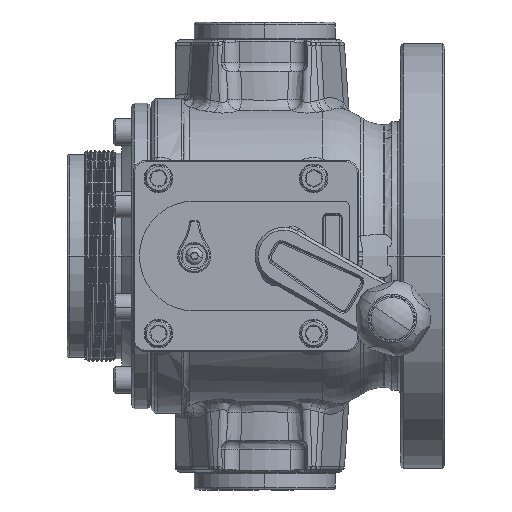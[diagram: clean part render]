
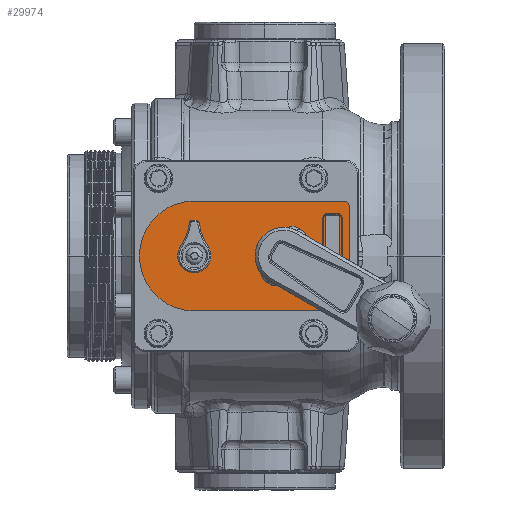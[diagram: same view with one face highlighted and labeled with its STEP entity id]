
A CAD part, left-side view. The second image highlights one B-rep face of the part: STEP entity #29974.
In plain terms, the highlighted planar face has unit normal (-1, 0, 0).
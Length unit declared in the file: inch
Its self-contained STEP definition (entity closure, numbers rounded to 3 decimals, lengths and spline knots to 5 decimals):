
#64 = FACE_BOUND ( 'NONE', #6450, .T. ) ;
#399 = LINE ( 'NONE', #24108, #70861 ) ;
#1744 = VECTOR ( 'NONE', #51177, 39.37008 ) ;
#2092 = CARTESIAN_POINT ( 'NONE',  ( -5.41, -1.25, -1.15 ) ) ;
#2377 = EDGE_LOOP ( 'NONE', ( #52035, #53061 ) ) ;
#2413 = ORIENTED_EDGE ( 'NONE', *, *, #67051, .T. ) ;
#3471 = VECTOR ( 'NONE', #18883, 39.37008 ) ;
#3736 = FACE_BOUND ( 'NONE', #64089, .T. ) ;
#4214 = DIRECTION ( 'NONE',  ( 0., 0., -1. ) ) ;
#4407 = VERTEX_POINT ( 'NONE', #2092 ) ;
#4870 = CIRCLE ( 'NONE', #58396, 0.125 ) ;
#5396 = CARTESIAN_POINT ( 'NONE',  ( -5.41, 1.875, 0. ) ) ;
#6450 = EDGE_LOOP ( 'NONE', ( #45688, #44149 ) ) ;
#6763 = DIRECTION ( 'NONE',  ( 0., 0., -1. ) ) ;
#7351 = CARTESIAN_POINT ( 'NONE',  ( -5.41, -0.8625, 0.85 ) ) ;
#8009 = DIRECTION ( 'NONE',  ( 0., 0., -1. ) ) ;
#8601 = VERTEX_POINT ( 'NONE', #13038 ) ;
#8854 = VERTEX_POINT ( 'NONE', #15743 ) ;
#9746 = ORIENTED_EDGE ( 'NONE', *, *, #58410, .T. ) ;
#9747 = DIRECTION ( 'NONE',  ( 1., 0., 0. ) ) ;
#10282 = CARTESIAN_POINT ( 'NONE',  ( -5.41, -3.04234, 1.15 ) ) ;
#11160 = DIRECTION ( 'NONE',  ( 1., 0., 0. ) ) ;
#11568 = ORIENTED_EDGE ( 'NONE', *, *, #24633, .F. ) ;
#11715 = CIRCLE ( 'NONE', #14725, 0.125 ) ;
#13038 = CARTESIAN_POINT ( 'NONE',  ( -5.41, 1.875, -0.275 ) ) ;
#14022 = CARTESIAN_POINT ( 'NONE',  ( -5.41, -0.8625, 0.85 ) ) ;
#14162 = VERTEX_POINT ( 'NONE', #14022 ) ;
#14367 = VERTEX_POINT ( 'NONE', #60472 ) ;
#14725 = AXIS2_PLACEMENT_3D ( 'NONE', #70105, #41361, #6763 ) ;
#15043 = CARTESIAN_POINT ( 'NONE',  ( -5.41, 1.875, 0. ) ) ;
#15691 = AXIS2_PLACEMENT_3D ( 'NONE', #69906, #25165, #35306 ) ;
#15743 = CARTESIAN_POINT ( 'NONE',  ( -5.41, -0.8625, -0.85 ) ) ;
#15766 = CARTESIAN_POINT ( 'NONE',  ( -5.41, -1.175, 0.85 ) ) ;
#15815 = CARTESIAN_POINT ( 'NONE',  ( -5.41, -1.25, 1.15 ) ) ;
#16701 = CARTESIAN_POINT ( 'NONE',  ( -5.41, -1.375, -1.025 ) ) ;
#18828 = ORIENTED_EDGE ( 'NONE', *, *, #60975, .F. ) ;
#18883 = DIRECTION ( 'NONE',  ( 0., -1., 0. ) ) ;
#18986 = AXIS2_PLACEMENT_3D ( 'NONE', #38750, #9747, #4214 ) ;
#18990 = FACE_BOUND ( 'NONE', #2377, .T. ) ;
#21743 = CIRCLE ( 'NONE', #66932, 0.275 ) ;
#21985 = EDGE_CURVE ( 'NONE', #14162, #65827, #36825, .T. ) ;
#22709 = DIRECTION ( 'NONE',  ( 0., 0., -1. ) ) ;
#23639 = CARTESIAN_POINT ( 'NONE',  ( -5.41, 0., -0.475 ) ) ;
#24108 = CARTESIAN_POINT ( 'NONE',  ( -5.41, -1.375, 0. ) ) ;
#24153 = ORIENTED_EDGE ( 'NONE', *, *, #21985, .T. ) ;
#24633 = EDGE_CURVE ( 'NONE', #67213, #4407, #4870, .T. ) ;
#24984 = CARTESIAN_POINT ( 'NONE',  ( -5.41, 1.875, 0. ) ) ;
#25165 = DIRECTION ( 'NONE',  ( 1., 0., 0. ) ) ;
#25577 = CARTESIAN_POINT ( 'NONE',  ( -5.41, 0., 0. ) ) ;
#25662 = ORIENTED_EDGE ( 'NONE', *, *, #59540, .F. ) ;
#26222 = CIRCLE ( 'NONE', #52034, 1.15 ) ;
#26231 = ORIENTED_EDGE ( 'NONE', *, *, #30992, .F. ) ;
#26714 = DIRECTION ( 'NONE',  ( 0., 0., 1. ) ) ;
#26840 = DIRECTION ( 'NONE',  ( 0., 0., -1. ) ) ;
#27152 = CARTESIAN_POINT ( 'NONE',  ( -5.41, -1.375, 1.025 ) ) ;
#27437 = CARTESIAN_POINT ( 'NONE',  ( -5.41, -0.8625, 0.85 ) ) ;
#27791 = DIRECTION ( 'NONE',  ( 0., 0., -1. ) ) ;
#28778 = CARTESIAN_POINT ( 'NONE',  ( -5.41, -1.25, -1.025 ) ) ;
#29399 = VERTEX_POINT ( 'NONE', #15815 ) ;
#29672 = ORIENTED_EDGE ( 'NONE', *, *, #72768, .T. ) ;
#29974 = ADVANCED_FACE ( 'NONE', ( #3736, #64, #18990, #47108 ), #67523, .F. ) ;
#30249 = EDGE_CURVE ( 'NONE', #51430, #8601, #21743, .T. ) ;
#30635 = EDGE_CURVE ( 'NONE', #45815, #14367, #47038, .T. ) ;
#30792 = CARTESIAN_POINT ( 'NONE',  ( -5.41, -3.04234, -1.15 ) ) ;
#30992 = EDGE_CURVE ( 'NONE', #29399, #72374, #11715, .T. ) ;
#35306 = DIRECTION ( 'NONE',  ( 0., 0., -1. ) ) ;
#36377 = AXIS2_PLACEMENT_3D ( 'NONE', #25577, #59746, #8009 ) ;
#36665 = DIRECTION ( 'NONE',  ( 1., 0., 0. ) ) ;
#36825 = LINE ( 'NONE', #7351, #3471 ) ;
#37453 = DIRECTION ( 'NONE',  ( 0., 0., -1. ) ) ;
#37806 = CARTESIAN_POINT ( 'NONE',  ( -5.41, -0.8625, -0.85 ) ) ;
#38750 = CARTESIAN_POINT ( 'NONE',  ( -5.41, -3.04234, 0. ) ) ;
#41361 = DIRECTION ( 'NONE',  ( 1., 0., 0. ) ) ;
#41763 = EDGE_CURVE ( 'NONE', #8601, #51430, #54444, .T. ) ;
#41827 = AXIS2_PLACEMENT_3D ( 'NONE', #5396, #11160, #22709 ) ;
#42154 = VECTOR ( 'NONE', #26714, 39.37008 ) ;
#43939 = LINE ( 'NONE', #55656, #51138 ) ;
#44149 = ORIENTED_EDGE ( 'NONE', *, *, #49456, .T. ) ;
#44312 = LINE ( 'NONE', #10282, #1744 ) ;
#44640 = LINE ( 'NONE', #30792, #70725 ) ;
#45583 = DIRECTION ( 'NONE',  ( 1., 0., 0. ) ) ;
#45688 = ORIENTED_EDGE ( 'NONE', *, *, #30635, .T. ) ;
#45815 = VERTEX_POINT ( 'NONE', #23639 ) ;
#46517 = VERTEX_POINT ( 'NONE', #67653 ) ;
#47001 = VERTEX_POINT ( 'NONE', #62747 ) ;
#47038 = CIRCLE ( 'NONE', #15691, 0.475 ) ;
#47066 = DIRECTION ( 'NONE',  ( 0., 0., -1. ) ) ;
#47108 = FACE_OUTER_BOUND ( 'NONE', #66136, .T. ) ;
#48382 = EDGE_CURVE ( 'NONE', #8854, #14162, #72853, .T. ) ;
#49456 = EDGE_CURVE ( 'NONE', #14367, #45815, #61235, .T. ) ;
#49483 = DIRECTION ( 'NONE',  ( 0., 1., 0. ) ) ;
#51138 = VECTOR ( 'NONE', #37453, 39.37008 ) ;
#51177 = DIRECTION ( 'NONE',  ( 0., 1., 0. ) ) ;
#51430 = VERTEX_POINT ( 'NONE', #68487 ) ;
#52034 = AXIS2_PLACEMENT_3D ( 'NONE', #15043, #61483, #26840 ) ;
#52035 = ORIENTED_EDGE ( 'NONE', *, *, #41763, .T. ) ;
#52573 = VECTOR ( 'NONE', #49483, 39.37008 ) ;
#53061 = ORIENTED_EDGE ( 'NONE', *, *, #30249, .T. ) ;
#54444 = CIRCLE ( 'NONE', #41827, 0.275 ) ;
#55656 = CARTESIAN_POINT ( 'NONE',  ( -5.41, -1.175, 0.85 ) ) ;
#58396 = AXIS2_PLACEMENT_3D ( 'NONE', #28778, #45583, #27791 ) ;
#58410 = EDGE_CURVE ( 'NONE', #73163, #47001, #26222, .T. ) ;
#58756 = ORIENTED_EDGE ( 'NONE', *, *, #48382, .T. ) ;
#58780 = DIRECTION ( 'NONE',  ( 0., 0., -1. ) ) ;
#59540 = EDGE_CURVE ( 'NONE', #72374, #67213, #399, .T. ) ;
#59695 = CARTESIAN_POINT ( 'NONE',  ( -5.41, 1.875, 1.15 ) ) ;
#59746 = DIRECTION ( 'NONE',  ( 1., 0., 0. ) ) ;
#60472 = CARTESIAN_POINT ( 'NONE',  ( -5.41, 0., 0.475 ) ) ;
#60975 = EDGE_CURVE ( 'NONE', #4407, #47001, #44640, .T. ) ;
#61235 = CIRCLE ( 'NONE', #36377, 0.475 ) ;
#61483 = DIRECTION ( 'NONE',  ( -1., 0., 0. ) ) ;
#62747 = CARTESIAN_POINT ( 'NONE',  ( -5.41, 1.875, -1.15 ) ) ;
#64089 = EDGE_LOOP ( 'NONE', ( #58756, #24153, #2413, #74489 ) ) ;
#65827 = VERTEX_POINT ( 'NONE', #15766 ) ;
#66136 = EDGE_LOOP ( 'NONE', ( #25662, #26231, #29672, #9746, #18828, #11568 ) ) ;
#66932 = AXIS2_PLACEMENT_3D ( 'NONE', #24984, #36665, #47066 ) ;
#67051 = EDGE_CURVE ( 'NONE', #65827, #46517, #43939, .T. ) ;
#67213 = VERTEX_POINT ( 'NONE', #16701 ) ;
#67523 = PLANE ( 'NONE',  #18986 ) ;
#67653 = CARTESIAN_POINT ( 'NONE',  ( -5.41, -1.175, -0.85 ) ) ;
#68487 = CARTESIAN_POINT ( 'NONE',  ( -5.41, 1.875, 0.275 ) ) ;
#69716 = LINE ( 'NONE', #37806, #52573 ) ;
#69906 = CARTESIAN_POINT ( 'NONE',  ( -5.41, 0., 0. ) ) ;
#70105 = CARTESIAN_POINT ( 'NONE',  ( -5.41, -1.25, 1.025 ) ) ;
#70725 = VECTOR ( 'NONE', #70956, 39.37008 ) ;
#70820 = EDGE_CURVE ( 'NONE', #46517, #8854, #69716, .T. ) ;
#70861 = VECTOR ( 'NONE', #58780, 39.37008 ) ;
#70956 = DIRECTION ( 'NONE',  ( 0., 1., 0. ) ) ;
#72374 = VERTEX_POINT ( 'NONE', #27152 ) ;
#72768 = EDGE_CURVE ( 'NONE', #29399, #73163, #44312, .T. ) ;
#72853 = LINE ( 'NONE', #27437, #42154 ) ;
#73163 = VERTEX_POINT ( 'NONE', #59695 ) ;
#74489 = ORIENTED_EDGE ( 'NONE', *, *, #70820, .T. ) ;
